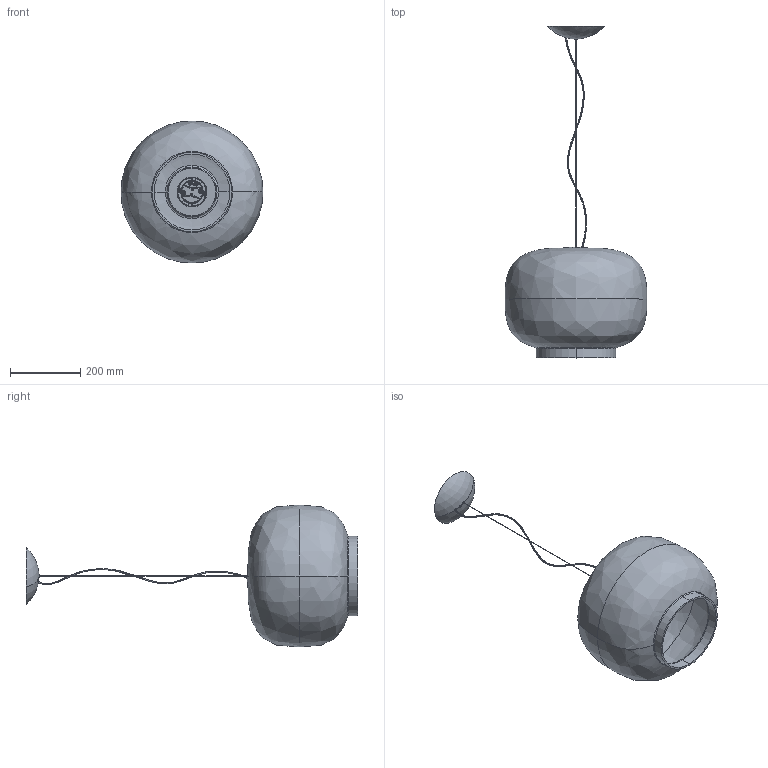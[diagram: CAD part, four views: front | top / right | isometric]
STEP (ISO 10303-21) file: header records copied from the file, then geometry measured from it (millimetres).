
FILE_DESCRIPTION (( 'STEP AP214' ), '1' );
FILE_NAME ('210_1_S_ME_3D.STEP', '2021-05-19T10:54:01', ( '' ), ( '' ), 'SwSTEP 2.0', 'SolidWorks 2021', '' );
FILE_SCHEMA (( 'AUTOMOTIVE_DESIGN' ));
Length unit declared in the file: millimetre
Products named in the file (1): 210_1_S_ME_3D
Bounding box: 404 x 944.31 x 404 mm (x, y, z)
Volume: 2706292.7 mm3; surface area: 996424.2 mm2
Topology: 4 solids, 4 shells, 1361 faces, 3349 edges, 1931 vertices
Faces by surface type: bspline 503, torus 219, cylinder 207, plane 199, cone 142, sphere 91
Entity records: 68105 total; most frequent: CARTESIAN_POINT 25456, ORIENTED_EDGE 6502, DIRECTION 5003, EDGE_CURVE 3251, AXIS2_PLACEMENT_3D 2224, VERTEX_POINT 1923, EDGE_LOOP 1400, UNCERTAINTY_MEASURE_WITH_UNIT 1367
